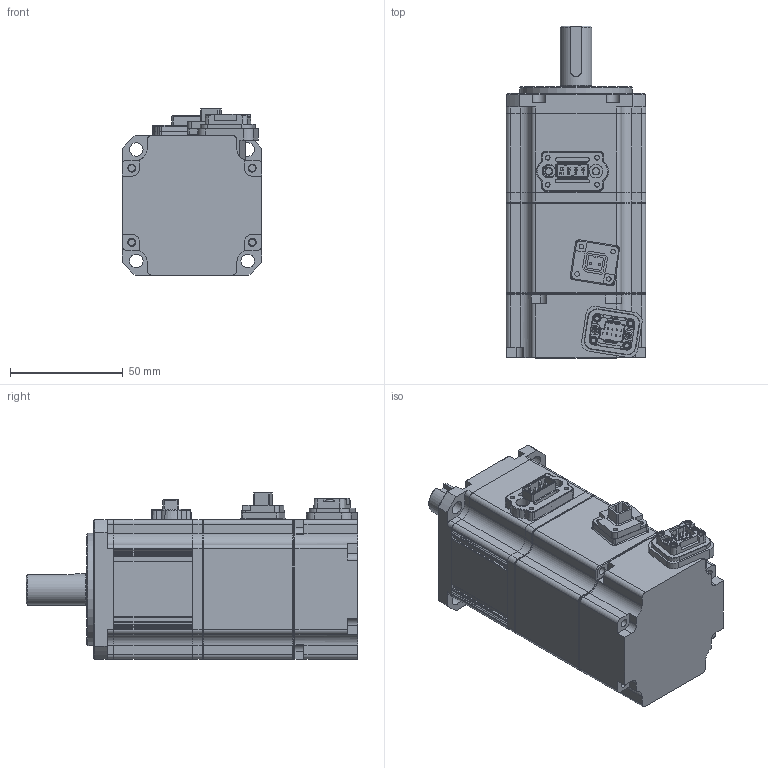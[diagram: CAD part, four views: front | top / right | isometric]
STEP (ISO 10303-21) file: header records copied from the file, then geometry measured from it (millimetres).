
FILE_DESCRIPTION(/* description */ (''),/* implementation_level */ '2;1');
FILE_NAME(/* name */ '\\EMN0D5F01\rp_inventor\RP Mechanical Design\P Series Files\P Series Step from ipt files\PM-FBL01AMK2.stp',/* time_stamp */ '2015-06-05T16:57:18-07:00',/* author */ ('jb17719'),/* organization */ (''),/* preprocessor_version */ 'ST-DEVELOPER v15.2',/* originating_system */ 'Autodesk Inventor 2014',/* authorisation */ '');
FILE_SCHEMA (('AUTOMOTIVE_DESIGN { 1 0 10303 214 3 1 1 }'));
Products named in the file (1): PM-FBL01AMK2.STEP
Bounding box: 62 x 147.5 x 73.8 mm (x, y, z)
Volume: 325276.9 mm3; surface area: 93839.2 mm2
Topology: 16 solids, 21 shells, 1725 faces, 4995 edges, 3359 vertices
Faces by surface type: plane 1085, cylinder 400, bspline 140, cone 63, torus 29, sphere 8
Full cylindrical faces by diameter (mm): 0.8 x9, 1 x2, 1.4 x4, 2 x22, 2.1 x14, 3 x21, 3.3 x1, 3.4 x1, 3.5 x12, 3.6 x8, 6 x6, 9.5 x2, 13 x1, 14 x1, 15 x1, 15.3 x1, 50 x1, 52 x1, 52.7 x1, 53 x1
Entity records: 68404 total; most frequent: CARTESIAN_POINT 23957, ORIENTED_EDGE 9181, DIRECTION 8518, EDGE_CURVE 4852, VERTEX_POINT 3351, LINE 3336, VECTOR 3336, AXIS2_PLACEMENT_3D 2591
